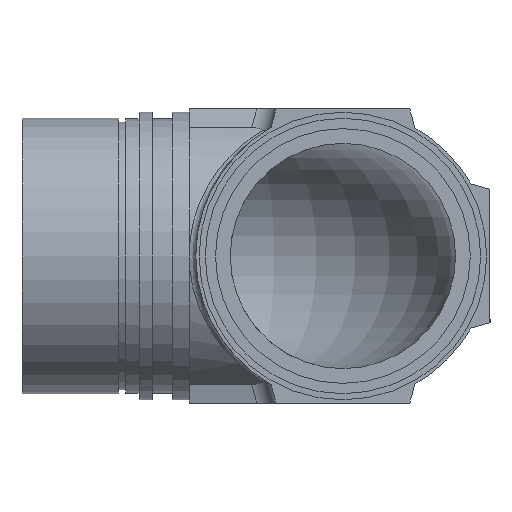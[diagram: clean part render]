
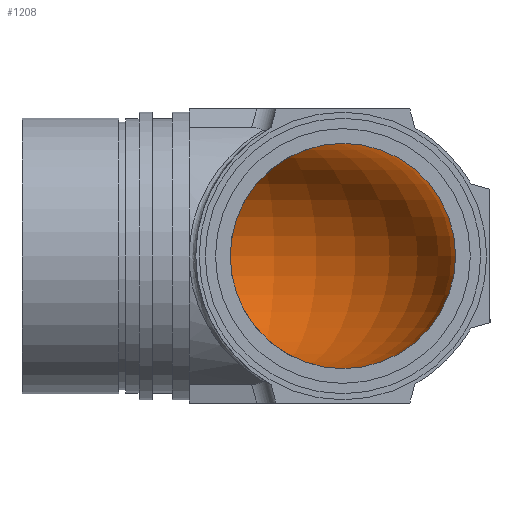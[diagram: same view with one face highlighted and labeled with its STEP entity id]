
A CAD part, left-side view. The second image highlights one B-rep face of the part: STEP entity #1208.
In plain terms, the highlighted toroidal (fillet/blend) face has major radius 16.85 mm and minor radius 16.85 mm.
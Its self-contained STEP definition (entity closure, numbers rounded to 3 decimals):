
#87 = EDGE_LOOP ( 'NONE', ( #576, #577, #578, #575, #579, #580 ) ) ;
#287 = VERTEX_POINT ( 'NONE', #715 ) ;
#288 = VERTEX_POINT ( 'NONE', #716 ) ;
#289 = VERTEX_POINT ( 'NONE', #717 ) ;
#290 = VERTEX_POINT ( 'NONE', #718 ) ;
#293 = VERTEX_POINT ( 'NONE', #721 ) ;
#294 = VERTEX_POINT ( 'NONE', #722 ) ;
#427 = AXIS2_PLACEMENT_3D ( 'NONE', #855, #856, #857 ) ;
#437 = AXIS2_PLACEMENT_3D ( 'NONE', #934, #935, #936 ) ;
#575 = ORIENTED_EDGE ( 'NONE', *, *, #1062, .T. ) ;
#576 = ORIENTED_EDGE ( 'NONE', *, *, #1078, .F. ) ;
#577 = ORIENTED_EDGE ( 'NONE', *, *, #1065, .T. ) ;
#578 = ORIENTED_EDGE ( 'NONE', *, *, #1081, .F. ) ;
#579 = ORIENTED_EDGE ( 'NONE', *, *, #1082, .F. ) ;
#580 = ORIENTED_EDGE ( 'NONE', *, *, #1068, .T. ) ;
#715 = CARTESIAN_POINT ( 'NONE',  ( -16.85, 0., 16.85 ) ) ;
#716 = CARTESIAN_POINT ( 'NONE',  ( -16.85, 0., -16.85 ) ) ;
#717 = CARTESIAN_POINT ( 'NONE',  ( 0., 16.85, -16.85 ) ) ;
#718 = CARTESIAN_POINT ( 'NONE',  ( -2.891, 2.891, -16.6 ) ) ;
#721 = CARTESIAN_POINT ( 'NONE',  ( 0., 16.85, 16.85 ) ) ;
#722 = CARTESIAN_POINT ( 'NONE',  ( -2.891, 2.891, 16.6 ) ) ;
#855 = CARTESIAN_POINT ( 'NONE',  ( -16.85, 0., 0. ) ) ;
#856 = DIRECTION ( 'NONE',  ( -1., 0., 0. ) ) ;
#857 = DIRECTION ( 'NONE',  ( 0., 0., 1. ) ) ;
#858 = CARTESIAN_POINT ( 'NONE',  ( 0., 16.85, -16.85 ) ) ;
#865 = CARTESIAN_POINT ( 'NONE',  ( -0.002, 16.249, -16.85 ) ) ;
#866 = CARTESIAN_POINT ( 'NONE',  ( -0.016, 15.649, -16.85 ) ) ;
#867 = CARTESIAN_POINT ( 'NONE',  ( -0.08, 14.449, -16.85 ) ) ;
#868 = CARTESIAN_POINT ( 'NONE',  ( -0.128, 13.851, -16.85 ) ) ;
#869 = CARTESIAN_POINT ( 'NONE',  ( -0.319, 12.06, -16.847 ) ) ;
#870 = CARTESIAN_POINT ( 'NONE',  ( -0.51, 10.874, -16.844 ) ) ;
#871 = CARTESIAN_POINT ( 'NONE',  ( -1.251, 7.374, -16.811 ) ) ;
#872 = CARTESIAN_POINT ( 'NONE',  ( -1.974, 5.104, -16.76 ) ) ;
#873 = CARTESIAN_POINT ( 'NONE',  ( -2.891, 2.891, -16.6 ) ) ;
#877 = CARTESIAN_POINT ( 'NONE',  ( -2.891, 2.891, 16.6 ) ) ;
#881 = CARTESIAN_POINT ( 'NONE',  ( -2.663, 3.441, 16.64 ) ) ;
#882 = CARTESIAN_POINT ( 'NONE',  ( -2.446, 3.998, 16.673 ) ) ;
#883 = CARTESIAN_POINT ( 'NONE',  ( -2.037, 5.12, 16.728 ) ) ;
#884 = CARTESIAN_POINT ( 'NONE',  ( -1.845, 5.686, 16.75 ) ) ;
#885 = CARTESIAN_POINT ( 'NONE',  ( -1.307, 7.394, 16.803 ) ) ;
#886 = CARTESIAN_POINT ( 'NONE',  ( -1.001, 8.551, 16.822 ) ) ;
#887 = CARTESIAN_POINT ( 'NONE',  ( -0.506, 10.892, 16.844 ) ) ;
#888 = CARTESIAN_POINT ( 'NONE',  ( -0.317, 12.075, 16.847 ) ) ;
#889 = CARTESIAN_POINT ( 'NONE',  ( -0.127, 13.86, 16.85 ) ) ;
#890 = CARTESIAN_POINT ( 'NONE',  ( -0.08, 14.457, 16.85 ) ) ;
#891 = CARTESIAN_POINT ( 'NONE',  ( -0.016, 15.653, 16.85 ) ) ;
#892 = CARTESIAN_POINT ( 'NONE',  ( -0.002, 16.252, 16.85 ) ) ;
#893 = CARTESIAN_POINT ( 'NONE',  ( 0., 16.85, 16.85 ) ) ;
#934 = CARTESIAN_POINT ( 'NONE',  ( 0., 16.85, 0. ) ) ;
#935 = DIRECTION ( 'NONE',  ( 0., -1., 0. ) ) ;
#936 = DIRECTION ( 'NONE',  ( 0., 0., -1. ) ) ;
#943 = CARTESIAN_POINT ( 'NONE',  ( -16.85, 0., -16.85 ) ) ;
#944 = CARTESIAN_POINT ( 'NONE',  ( -16.249, 0.002, -16.85 ) ) ;
#945 = CARTESIAN_POINT ( 'NONE',  ( -15.649, 0.016, -16.85 ) ) ;
#946 = CARTESIAN_POINT ( 'NONE',  ( -14.449, 0.08, -16.85 ) ) ;
#947 = CARTESIAN_POINT ( 'NONE',  ( -13.851, 0.128, -16.85 ) ) ;
#948 = CARTESIAN_POINT ( 'NONE',  ( -12.06, 0.319, -16.847 ) ) ;
#949 = CARTESIAN_POINT ( 'NONE',  ( -10.874, 0.51, -16.844 ) ) ;
#950 = CARTESIAN_POINT ( 'NONE',  ( -7.374, 1.251, -16.811 ) ) ;
#951 = CARTESIAN_POINT ( 'NONE',  ( -5.104, 1.974, -16.76 ) ) ;
#952 = CARTESIAN_POINT ( 'NONE',  ( -2.891, 2.891, -16.6 ) ) ;
#953 = CARTESIAN_POINT ( 'NONE',  ( -2.891, 2.891, 16.6 ) ) ;
#954 = CARTESIAN_POINT ( 'NONE',  ( -3.441, 2.663, 16.64 ) ) ;
#955 = CARTESIAN_POINT ( 'NONE',  ( -3.998, 2.446, 16.673 ) ) ;
#956 = CARTESIAN_POINT ( 'NONE',  ( -5.12, 2.037, 16.728 ) ) ;
#957 = CARTESIAN_POINT ( 'NONE',  ( -5.686, 1.845, 16.75 ) ) ;
#958 = CARTESIAN_POINT ( 'NONE',  ( -7.394, 1.307, 16.803 ) ) ;
#959 = CARTESIAN_POINT ( 'NONE',  ( -8.551, 1.001, 16.822 ) ) ;
#960 = CARTESIAN_POINT ( 'NONE',  ( -10.892, 0.506, 16.844 ) ) ;
#961 = CARTESIAN_POINT ( 'NONE',  ( -12.075, 0.317, 16.847 ) ) ;
#962 = CARTESIAN_POINT ( 'NONE',  ( -13.86, 0.127, 16.85 ) ) ;
#963 = CARTESIAN_POINT ( 'NONE',  ( -14.457, 0.08, 16.85 ) ) ;
#964 = CARTESIAN_POINT ( 'NONE',  ( -15.653, 0.016, 16.85 ) ) ;
#965 = CARTESIAN_POINT ( 'NONE',  ( -16.252, 0.002, 16.85 ) ) ;
#966 = CARTESIAN_POINT ( 'NONE',  ( -16.85, 0., 16.85 ) ) ;
#1062 = EDGE_CURVE ( 'NONE', #288, #287, #1278, .T. ) ;
#1065 = EDGE_CURVE ( 'NONE', #289, #290, #2536, .T. ) ;
#1068 = EDGE_CURVE ( 'NONE', #294, #293, #2537, .T. ) ;
#1078 = EDGE_CURVE ( 'NONE', #289, #293, #1287, .T. ) ;
#1081 = EDGE_CURVE ( 'NONE', #288, #290, #2544, .T. ) ;
#1082 = EDGE_CURVE ( 'NONE', #294, #287, #2543, .T. ) ;
#1208 = ADVANCED_FACE ( 'NONE', ( #2224 ), #1401, .F. ) ;
#1278 = CIRCLE ( 'NONE', #427, 16.85 ) ;
#1287 = CIRCLE ( 'NONE', #437, 16.85 ) ;
#1401 = TOROIDAL_SURFACE ( 'NONE', #2227, 16.85, 16.85 ) ;
#1717 = CARTESIAN_POINT ( 'NONE',  ( -16.85, 16.85, 0. ) ) ;
#1718 = DIRECTION ( 'NONE',  ( 0., 0., -1. ) ) ;
#1719 = DIRECTION ( 'NONE',  ( -1., 0., 0. ) ) ;
#2224 = FACE_OUTER_BOUND ( 'NONE', #87, .T. ) ;
#2227 = AXIS2_PLACEMENT_3D ( 'NONE', #1717, #1718, #1719 ) ;
#2536 = B_SPLINE_CURVE_WITH_KNOTS ( 'NONE', 3,
 ( #858, #865, #866, #867, #868, #869, #870, #871, #872, #873 ),
 .UNSPECIFIED., .F., .F.,
 ( 4, 2, 2, 2, 4 ),
 ( 0., 0.002, 0.003, 0.007, 0.014 ),
 .UNSPECIFIED. ) ;
#2537 = B_SPLINE_CURVE_WITH_KNOTS ( 'NONE', 3,
 ( #877, #881, #882, #883, #884, #885, #886, #887, #888, #889, #890, #891, #892, #893 ),
 .UNSPECIFIED., .F., .F.,
 ( 4, 2, 2, 2, 2, 2, 4 ),
 ( 0.079, 0.081, 0.083, 0.087, 0.09, 0.092, 0.094 ),
 .UNSPECIFIED. ) ;
#2543 = B_SPLINE_CURVE_WITH_KNOTS ( 'NONE', 3,
 ( #953, #954, #955, #956, #957, #958, #959, #960, #961, #962, #963, #964, #965, #966 ),
 .UNSPECIFIED., .F., .F.,
 ( 4, 2, 2, 2, 2, 2, 4 ),
 ( 0.079, 0.081, 0.083, 0.087, 0.09, 0.092, 0.094 ),
 .UNSPECIFIED. ) ;
#2544 = B_SPLINE_CURVE_WITH_KNOTS ( 'NONE', 3,
 ( #943, #944, #945, #946, #947, #948, #949, #950, #951, #952 ),
 .UNSPECIFIED., .F., .F.,
 ( 4, 2, 2, 2, 4 ),
 ( 0., 0.002, 0.003, 0.007, 0.014 ),
 .UNSPECIFIED. ) ;
